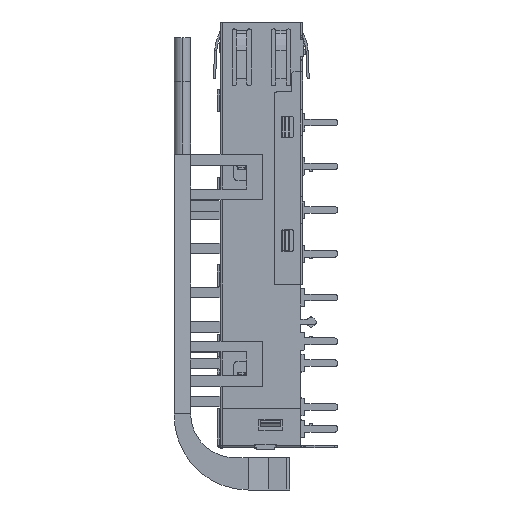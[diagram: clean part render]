
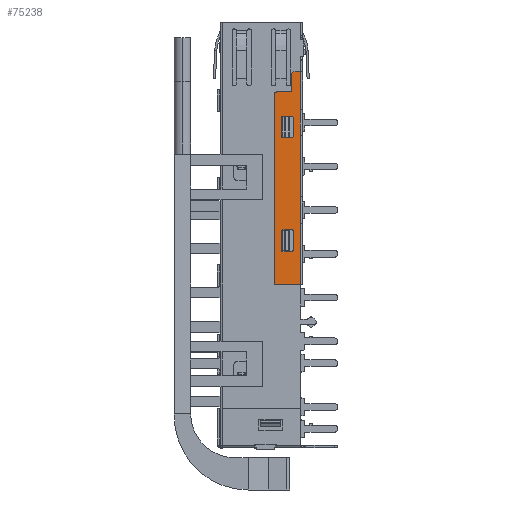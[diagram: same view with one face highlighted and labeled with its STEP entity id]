
A CAD part, left-side view. The second image highlights one B-rep face of the part: STEP entity #75238.
In plain terms, the highlighted planar face has unit normal (-1, 0, 0).
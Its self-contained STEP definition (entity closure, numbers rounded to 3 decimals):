
#23068=CARTESIAN_POINT('',(1.547,11.931,
-25.33));
#23069=DIRECTION('',(1.,0.,0.));
#23070=DIRECTION('',(0.,0.,1.));
#23071=AXIS2_PLACEMENT_3D('',#23068,#23069,#23070);
#23073=DIRECTION('',(0.,1.,0.));
#23074=VECTOR('',#23073,1.);
#23075=CARTESIAN_POINT('',(1.547,11.931,
-25.18));
#23076=LINE('',#23075,#23074);
#23077=CARTESIAN_POINT('',(1.547,12.931,
-25.33));
#23078=DIRECTION('',(1.,0.,0.));
#23079=DIRECTION('',(0.,1.,0.));
#23080=AXIS2_PLACEMENT_3D('',#23077,#23078,#23079);
#23082=DIRECTION('',(0.,0.,-1.));
#23083=VECTOR('',#23082,2.2);
#23084=CARTESIAN_POINT('',(1.547,13.081,
-25.33));
#23085=LINE('',#23084,#23083);
#23086=CARTESIAN_POINT('',(1.547,12.931,
-27.53));
#23087=DIRECTION('',(1.,0.,0.));
#23088=DIRECTION('',(0.,0.,-1.));
#23089=AXIS2_PLACEMENT_3D('',#23086,#23087,#23088);
#23091=DIRECTION('',(0.,-1.,0.));
#23092=VECTOR('',#23091,1.);
#23093=CARTESIAN_POINT('',(1.547,12.931,
-27.68));
#23094=LINE('',#23093,#23092);
#23095=CARTESIAN_POINT('',(1.547,11.931,
-27.53));
#23096=DIRECTION('',(1.,0.,0.));
#23097=DIRECTION('',(0.,-1.,0.));
#23098=AXIS2_PLACEMENT_3D('',#23095,#23096,#23097);
#23100=DIRECTION('',(0.,0.,1.));
#23101=VECTOR('',#23100,2.2);
#23102=CARTESIAN_POINT('',(1.547,11.781,
-27.53));
#23103=LINE('',#23102,#23101);
#23104=CARTESIAN_POINT('',(1.547,11.931,
-12.33));
#23105=DIRECTION('',(1.,0.,0.));
#23106=DIRECTION('',(0.,0.,1.));
#23107=AXIS2_PLACEMENT_3D('',#23104,#23105,#23106);
#23109=DIRECTION('',(0.,1.,0.));
#23110=VECTOR('',#23109,1.);
#23111=CARTESIAN_POINT('',(1.547,11.931,
-12.18));
#23112=LINE('',#23111,#23110);
#23113=CARTESIAN_POINT('',(1.547,12.931,
-12.33));
#23114=DIRECTION('',(1.,0.,0.));
#23115=DIRECTION('',(0.,1.,0.));
#23116=AXIS2_PLACEMENT_3D('',#23113,#23114,#23115);
#23118=DIRECTION('',(0.,0.,-1.));
#23119=VECTOR('',#23118,2.2);
#23120=CARTESIAN_POINT('',(1.547,13.081,
-12.33));
#23121=LINE('',#23120,#23119);
#23122=CARTESIAN_POINT('',(1.547,12.931,
-14.53));
#23123=DIRECTION('',(1.,0.,0.));
#23124=DIRECTION('',(0.,0.,-1.));
#23125=AXIS2_PLACEMENT_3D('',#23122,#23123,#23124);
#23127=DIRECTION('',(0.,-1.,0.));
#23128=VECTOR('',#23127,1.);
#23129=CARTESIAN_POINT('',(1.547,12.931,
-14.68));
#23130=LINE('',#23129,#23128);
#23131=CARTESIAN_POINT('',(1.547,11.931,
-14.53));
#23132=DIRECTION('',(1.,0.,0.));
#23133=DIRECTION('',(0.,-1.,0.));
#23134=AXIS2_PLACEMENT_3D('',#23131,#23132,#23133);
#23136=DIRECTION('',(0.,0.,1.));
#23137=VECTOR('',#23136,2.2);
#23138=CARTESIAN_POINT('',(1.547,11.781,
-14.53));
#23139=LINE('',#23138,#23137);
#23140=DIRECTION('',(0.,-1.,0.));
#23141=VECTOR('',#23140,0.75);
#23142=CARTESIAN_POINT('',(1.547,11.681,
-7.13));
#23143=LINE('',#23142,#23141);
#23144=DIRECTION('',(0.,0.,-1.));
#23145=VECTOR('',#23144,24.3);
#23146=CARTESIAN_POINT('',(1.547,10.931,
-7.13));
#23147=LINE('',#23146,#23145);
#23148=CARTESIAN_POINT('',(1.547,13.681,
-9.68));
#23149=DIRECTION('',(1.,0.,0.));
#23150=DIRECTION('',(0.,1.,0.));
#23151=AXIS2_PLACEMENT_3D('',#23148,#23149,#23150);
#23153=DIRECTION('',(0.,-1.,0.));
#23154=VECTOR('',#23153,1.5);
#23155=CARTESIAN_POINT('',(1.547,13.681,
-9.43));
#23156=LINE('',#23155,#23154);
#23157=CARTESIAN_POINT('',(1.547,12.181,
-9.18));
#23158=DIRECTION('',(-1.,0.,0.));
#23159=DIRECTION('',(0.,0.,-1.));
#23160=AXIS2_PLACEMENT_3D('',#23157,#23158,#23159);
#23162=DIRECTION('',(0.,0.,1.));
#23163=VECTOR('',#23162,1.8);
#23164=CARTESIAN_POINT('',(1.547,11.931,
-9.18));
#23165=LINE('',#23164,#23163);
#23166=CARTESIAN_POINT('',(1.547,11.681,
-7.38));
#23167=DIRECTION('',(1.,0.,0.));
#23168=DIRECTION('',(0.,1.,0.));
#23169=AXIS2_PLACEMENT_3D('',#23166,#23167,#23168);
#23358=DIRECTION('',(0.,0.,-1.));
#23359=VECTOR('',#23358,21.75);
#23360=CARTESIAN_POINT('',(1.547,13.931,
-9.68));
#23361=LINE('',#23360,#23359);
#23370=DIRECTION('',(0.,1.,0.));
#23371=VECTOR('',#23370,3.);
#23372=CARTESIAN_POINT('',(1.547,10.931,
-31.43));
#23373=LINE('',#23372,#23371);
#42900=CARTESIAN_POINT('',(1.547,10.931,
-31.43));
#42901=CARTESIAN_POINT('',(1.547,13.931,
-31.43));
#42902=VERTEX_POINT('',#42900);
#42903=VERTEX_POINT('',#42901);
#43556=CARTESIAN_POINT('',(1.547,11.931,
-7.38));
#43557=CARTESIAN_POINT('',(1.547,11.681,
-7.13));
#43558=VERTEX_POINT('',#43556);
#43559=VERTEX_POINT('',#43557);
#43560=CARTESIAN_POINT('',(1.547,11.931,
-9.18));
#43561=VERTEX_POINT('',#43560);
#43562=CARTESIAN_POINT('',(1.547,12.181,
-9.43));
#43563=VERTEX_POINT('',#43562);
#43564=CARTESIAN_POINT('',(1.547,13.681,
-9.43));
#43565=VERTEX_POINT('',#43564);
#43566=CARTESIAN_POINT('',(1.547,13.931,
-9.68));
#43567=VERTEX_POINT('',#43566);
#43940=CARTESIAN_POINT('',(1.547,11.931,
-25.18));
#43941=CARTESIAN_POINT('',(1.547,11.781,
-25.33));
#43942=VERTEX_POINT('',#43940);
#43943=VERTEX_POINT('',#43941);
#43944=CARTESIAN_POINT('',(1.547,12.931,
-25.18));
#43945=VERTEX_POINT('',#43944);
#43946=CARTESIAN_POINT('',(1.547,13.081,
-25.33));
#43947=VERTEX_POINT('',#43946);
#43948=CARTESIAN_POINT('',(1.547,13.081,
-27.53));
#43949=VERTEX_POINT('',#43948);
#43950=CARTESIAN_POINT('',(1.547,12.931,
-27.68));
#43951=VERTEX_POINT('',#43950);
#43952=CARTESIAN_POINT('',(1.547,11.931,
-27.68));
#43953=VERTEX_POINT('',#43952);
#43954=CARTESIAN_POINT('',(1.547,11.781,
-27.53));
#43955=VERTEX_POINT('',#43954);
#43956=CARTESIAN_POINT('',(1.547,11.931,
-12.18));
#43957=CARTESIAN_POINT('',(1.547,11.781,
-12.33));
#43958=VERTEX_POINT('',#43956);
#43959=VERTEX_POINT('',#43957);
#43960=CARTESIAN_POINT('',(1.547,12.931,
-12.18));
#43961=VERTEX_POINT('',#43960);
#43962=CARTESIAN_POINT('',(1.547,13.081,
-12.33));
#43963=VERTEX_POINT('',#43962);
#43964=CARTESIAN_POINT('',(1.547,13.081,
-14.53));
#43965=VERTEX_POINT('',#43964);
#43966=CARTESIAN_POINT('',(1.547,12.931,
-14.68));
#43967=VERTEX_POINT('',#43966);
#43968=CARTESIAN_POINT('',(1.547,11.931,
-14.68));
#43969=VERTEX_POINT('',#43968);
#43970=CARTESIAN_POINT('',(1.547,11.781,
-14.53));
#43971=VERTEX_POINT('',#43970);
#44070=CARTESIAN_POINT('',(1.547,10.931,
-7.13));
#44071=VERTEX_POINT('',#44070);
#75183=CARTESIAN_POINT('',(1.547,10.931,
-1.43));
#75184=DIRECTION('',(-1.,0.,0.));
#75185=DIRECTION('',(0.,1.,0.));
#75186=AXIS2_PLACEMENT_3D('',#75183,#75184,#75185);
#75187=PLANE('',#75186);
#75188=ORIENTED_EDGE('',*,*,#74530,.T.);
#75190=ORIENTED_EDGE('',*,*,#75189,.T.);
#75192=ORIENTED_EDGE('',*,*,#75191,.T.);
#75194=ORIENTED_EDGE('',*,*,#75193,.F.);
#75195=ORIENTED_EDGE('',*,*,#75062,.T.);
#75196=ORIENTED_EDGE('',*,*,#75091,.T.);
#75197=ORIENTED_EDGE('',*,*,#75119,.T.);
#75198=ORIENTED_EDGE('',*,*,#75147,.T.);
#75199=ORIENTED_EDGE('',*,*,#75174,.T.);
#75200=EDGE_LOOP('',(#75188,#75190,#75192,#75194,#75195,#75196,#75197,#75198,
#75199));
#75201=FACE_OUTER_BOUND('',#75200,.F.);
#75203=ORIENTED_EDGE('',*,*,#75202,.F.);
#75205=ORIENTED_EDGE('',*,*,#75204,.T.);
#75207=ORIENTED_EDGE('',*,*,#75206,.F.);
#75209=ORIENTED_EDGE('',*,*,#75208,.T.);
#75211=ORIENTED_EDGE('',*,*,#75210,.F.);
#75213=ORIENTED_EDGE('',*,*,#75212,.T.);
#75215=ORIENTED_EDGE('',*,*,#75214,.F.);
#75217=ORIENTED_EDGE('',*,*,#75216,.T.);
#75218=EDGE_LOOP('',(#75203,#75205,#75207,#75209,#75211,#75213,#75215,#75217));
#75219=FACE_BOUND('',#75218,.F.);
#75221=ORIENTED_EDGE('',*,*,#75220,.F.);
#75223=ORIENTED_EDGE('',*,*,#75222,.T.);
#75225=ORIENTED_EDGE('',*,*,#75224,.F.);
#75227=ORIENTED_EDGE('',*,*,#75226,.T.);
#75229=ORIENTED_EDGE('',*,*,#75228,.F.);
#75231=ORIENTED_EDGE('',*,*,#75230,.T.);
#75233=ORIENTED_EDGE('',*,*,#75232,.F.);
#75235=ORIENTED_EDGE('',*,*,#75234,.T.);
#75236=EDGE_LOOP('',(#75221,#75223,#75225,#75227,#75229,#75231,#75233,#75235));
#75237=FACE_BOUND('',#75236,.F.);
#23072=CIRCLE('',#23071,0.15);
#23081=CIRCLE('',#23080,0.15);
#23090=CIRCLE('',#23089,0.15);
#23099=CIRCLE('',#23098,0.15);
#23108=CIRCLE('',#23107,0.15);
#23117=CIRCLE('',#23116,0.15);
#23126=CIRCLE('',#23125,0.15);
#23135=CIRCLE('',#23134,0.15);
#23152=CIRCLE('',#23151,0.25);
#23161=CIRCLE('',#23160,0.25);
#23170=CIRCLE('',#23169,0.25);
#74530=EDGE_CURVE('',#43559,#44071,#23143,.T.);
#75062=EDGE_CURVE('',#43567,#43565,#23152,.T.);
#75091=EDGE_CURVE('',#43565,#43563,#23156,.T.);
#75119=EDGE_CURVE('',#43563,#43561,#23161,.T.);
#75147=EDGE_CURVE('',#43561,#43558,#23165,.T.);
#75174=EDGE_CURVE('',#43558,#43559,#23170,.T.);
#75189=EDGE_CURVE('',#44071,#42902,#23147,.T.);
#75191=EDGE_CURVE('',#42902,#42903,#23373,.T.);
#75193=EDGE_CURVE('',#43567,#42903,#23361,.T.);
#75202=EDGE_CURVE('',#43958,#43959,#23108,.T.);
#75204=EDGE_CURVE('',#43958,#43961,#23112,.T.);
#75206=EDGE_CURVE('',#43963,#43961,#23117,.T.);
#75208=EDGE_CURVE('',#43963,#43965,#23121,.T.);
#75210=EDGE_CURVE('',#43967,#43965,#23126,.T.);
#75212=EDGE_CURVE('',#43967,#43969,#23130,.T.);
#75214=EDGE_CURVE('',#43971,#43969,#23135,.T.);
#75216=EDGE_CURVE('',#43971,#43959,#23139,.T.);
#75220=EDGE_CURVE('',#43942,#43943,#23072,.T.);
#75222=EDGE_CURVE('',#43942,#43945,#23076,.T.);
#75224=EDGE_CURVE('',#43947,#43945,#23081,.T.);
#75226=EDGE_CURVE('',#43947,#43949,#23085,.T.);
#75228=EDGE_CURVE('',#43951,#43949,#23090,.T.);
#75230=EDGE_CURVE('',#43951,#43953,#23094,.T.);
#75232=EDGE_CURVE('',#43955,#43953,#23099,.T.);
#75234=EDGE_CURVE('',#43955,#43943,#23103,.T.);
#75238=ADVANCED_FACE('',(#75201,#75219,#75237),#75187,.T.);
